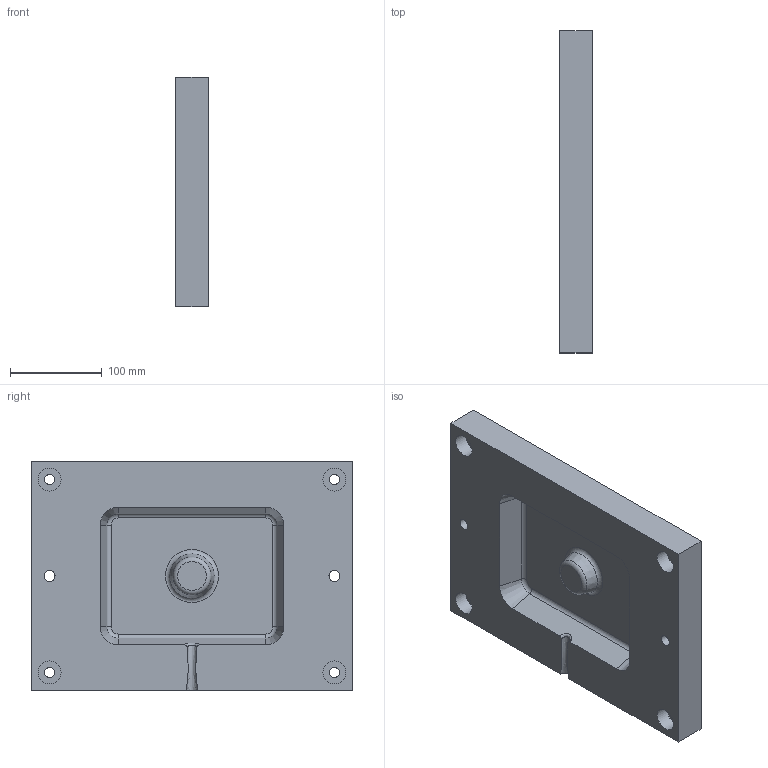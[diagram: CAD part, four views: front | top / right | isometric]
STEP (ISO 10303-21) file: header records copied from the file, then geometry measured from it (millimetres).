
FILE_DESCRIPTION((''),'2;1');
FILE_NAME('C:\Users\User\Dropbox\Camcut\Koulutus\Mastercam\Mastercam_Mill3D_1.stp','2020-03-25T10:41:14',(''),(''),'STEP Write','Mastercam 2020 ... CNC Software, Inc.','');
FILE_SCHEMA(('AUTOMOTIVE_DESIGN'));
Length unit declared in the file: millimetre
Products named in the file (1): None
Bounding box: 35 x 350 x 250 mm (x, y, z)
Volume: 2237582.8 mm3; surface area: 241944.8 mm2
Topology: 1 solids, 1 shells, 43 faces, 109 edges, 73 vertices
Faces by surface type: plane 16, cylinder 14, torus 6, cone 5, bspline 2
Full cylindrical faces by diameter (mm): 11 x4, 12 x2, 25 x4
Entity records: 1553 total; most frequent: CARTESIAN_POINT 518, DIRECTION 209, ORIENTED_EDGE 170, AXIS2_PLACEMENT_3D 88, EDGE_CURVE 85, EDGE_LOOP 73, VERTEX_POINT 62, CIRCLE 45
